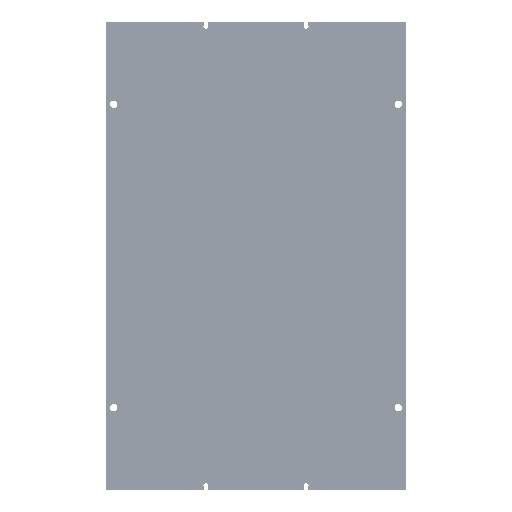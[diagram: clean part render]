
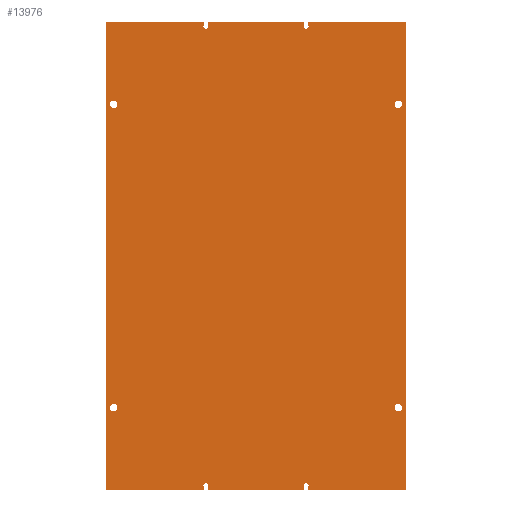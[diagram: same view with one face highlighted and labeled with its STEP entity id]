
A CAD part, front view. The second image highlights one B-rep face of the part: STEP entity #13976.
In plain terms, the highlighted planar face has unit normal (0, -1, 0).
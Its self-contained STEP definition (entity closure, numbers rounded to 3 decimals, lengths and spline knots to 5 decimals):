
#820=LINE('',#18560,#2181);
#1679=LINE('',#46439,#3040);
#1681=LINE('',#46443,#3042);
#1778=LINE('',#55259,#3139);
#1780=LINE('',#55263,#3141);
#1783=LINE('',#55269,#3144);
#1788=LINE('',#55283,#3149);
#1790=LINE('',#55287,#3151);
#1825=LINE('',#55360,#3186);
#1882=LINE('',#55473,#3243);
#1959=LINE('',#64258,#3320);
#1962=LINE('',#64264,#3323);
#1965=LINE('',#64271,#3326);
#1966=LINE('',#64273,#3327);
#1967=LINE('',#64276,#3328);
#1968=LINE('',#64279,#3329);
#2181=VECTOR('',#15338,0.06885);
#3040=VECTOR('',#17245,0.06885);
#3042=VECTOR('',#17249,0.00168);
#3139=VECTOR('',#17466,0.00168);
#3141=VECTOR('',#17470,0.0677);
#3144=VECTOR('',#17475,0.00168);
#3149=VECTOR('',#17488,0.00168);
#3151=VECTOR('',#17492,0.06885);
#3186=VECTOR('',#17565,0.327);
#3243=VECTOR('',#17670,0.327);
#3320=VECTOR('',#17837,0.06885);
#3323=VECTOR('',#17842,0.00168);
#3326=VECTOR('',#17847,0.0677);
#3327=VECTOR('',#17848,0.00168);
#3328=VECTOR('',#17851,0.00168);
#3329=VECTOR('',#17854,0.00168);
#3506=FACE_BOUND('',#5208,.T.);
#3507=FACE_BOUND('',#5209,.T.);
#3508=FACE_BOUND('',#5210,.T.);
#3509=FACE_BOUND('',#5211,.T.);
#4338=FACE_OUTER_BOUND('',#5207,.T.);
#5207=EDGE_LOOP('',(#12322,#12323,#12324,#12325,#12326,#12327,#12328,#12329,
#12330,#12331,#12332,#12333,#12334,#12335,#12336,#12337,#12338,#12339,#12340,
#12341));
#5208=EDGE_LOOP('',(#12342));
#5209=EDGE_LOOP('',(#12343));
#5210=EDGE_LOOP('',(#12344));
#5211=EDGE_LOOP('',(#12345));
#5316=CIRCLE('',#14190,0.00265);
#5319=CIRCLE('',#14195,0.00265);
#5344=CIRCLE('',#14282,0.00265);
#5347=CIRCLE('',#14287,0.00265);
#5424=CIRCLE('',#14782,0.00175);
#5425=CIRCLE('',#14787,0.00175);
#5443=CIRCLE('',#14881,0.00175);
#5444=CIRCLE('',#14882,0.00175);
#5581=VERTEX_POINT('',#18532);
#5584=VERTEX_POINT('',#18540);
#5592=VERTEX_POINT('',#18557);
#5593=VERTEX_POINT('',#18559);
#5722=VERTEX_POINT('',#27472);
#5725=VERTEX_POINT('',#27480);
#6356=VERTEX_POINT('',#46436);
#6357=VERTEX_POINT('',#46438);
#6358=VERTEX_POINT('',#46442);
#6472=VERTEX_POINT('',#55254);
#6473=VERTEX_POINT('',#55258);
#6474=VERTEX_POINT('',#55262);
#6476=VERTEX_POINT('',#55268);
#6478=VERTEX_POINT('',#55274);
#6481=VERTEX_POINT('',#55282);
#6482=VERTEX_POINT('',#55286);
#6533=VERTEX_POINT('',#55471);
#6628=VERTEX_POINT('',#64257);
#6630=VERTEX_POINT('',#64263);
#6632=VERTEX_POINT('',#64269);
#6633=VERTEX_POINT('',#64270);
#6634=VERTEX_POINT('',#64272);
#6635=VERTEX_POINT('',#64274);
#6636=VERTEX_POINT('',#64277);
#6915=EDGE_CURVE('',#5581,#5581,#5316,.T.);
#6918=EDGE_CURVE('',#5584,#5584,#5319,.T.);
#6926=EDGE_CURVE('',#5593,#5592,#820,.T.);
#7128=EDGE_CURVE('',#5722,#5722,#5344,.T.);
#7131=EDGE_CURVE('',#5725,#5725,#5347,.T.);
#8117=EDGE_CURVE('',#6356,#6357,#1679,.T.);
#8119=EDGE_CURVE('',#6357,#6358,#1681,.T.);
#8296=EDGE_CURVE('',#6472,#6358,#5424,.T.);
#8298=EDGE_CURVE('',#6473,#6472,#1778,.T.);
#8300=EDGE_CURVE('',#6473,#6474,#1780,.T.);
#8303=EDGE_CURVE('',#6474,#6476,#1783,.T.);
#8306=EDGE_CURVE('',#6478,#6476,#5425,.T.);
#8310=EDGE_CURVE('',#6481,#6478,#1788,.T.);
#8312=EDGE_CURVE('',#6481,#6482,#1790,.T.);
#8349=EDGE_CURVE('',#5592,#6482,#1825,.T.);
#8406=EDGE_CURVE('',#6533,#6356,#1882,.T.);
#8557=EDGE_CURVE('',#6533,#6628,#1959,.T.);
#8560=EDGE_CURVE('',#6628,#6630,#1962,.T.);
#8563=EDGE_CURVE('',#6632,#6633,#1965,.T.);
#8564=EDGE_CURVE('',#6633,#6634,#1966,.T.);
#8565=EDGE_CURVE('',#6635,#6634,#5443,.T.);
#8566=EDGE_CURVE('',#5593,#6635,#1967,.T.);
#8567=EDGE_CURVE('',#6636,#6630,#5444,.T.);
#8568=EDGE_CURVE('',#6632,#6636,#1968,.T.);
#12322=ORIENTED_EDGE('',*,*,#8563,.T.);
#12323=ORIENTED_EDGE('',*,*,#8564,.T.);
#12324=ORIENTED_EDGE('',*,*,#8565,.F.);
#12325=ORIENTED_EDGE('',*,*,#8566,.F.);
#12326=ORIENTED_EDGE('',*,*,#6926,.T.);
#12327=ORIENTED_EDGE('',*,*,#8349,.T.);
#12328=ORIENTED_EDGE('',*,*,#8312,.F.);
#12329=ORIENTED_EDGE('',*,*,#8310,.T.);
#12330=ORIENTED_EDGE('',*,*,#8306,.T.);
#12331=ORIENTED_EDGE('',*,*,#8303,.F.);
#12332=ORIENTED_EDGE('',*,*,#8300,.F.);
#12333=ORIENTED_EDGE('',*,*,#8298,.T.);
#12334=ORIENTED_EDGE('',*,*,#8296,.T.);
#12335=ORIENTED_EDGE('',*,*,#8119,.F.);
#12336=ORIENTED_EDGE('',*,*,#8117,.F.);
#12337=ORIENTED_EDGE('',*,*,#8406,.F.);
#12338=ORIENTED_EDGE('',*,*,#8557,.T.);
#12339=ORIENTED_EDGE('',*,*,#8560,.T.);
#12340=ORIENTED_EDGE('',*,*,#8567,.F.);
#12341=ORIENTED_EDGE('',*,*,#8568,.F.);
#12342=ORIENTED_EDGE('',*,*,#7131,.T.);
#12343=ORIENTED_EDGE('',*,*,#7128,.T.);
#12344=ORIENTED_EDGE('',*,*,#6918,.T.);
#12345=ORIENTED_EDGE('',*,*,#6915,.T.);
#13215=PLANE('',#14880);
#13976=ADVANCED_FACE('',(#4338,#3506,#3507,#3508,#3509),#13215,.T.);
#14190=AXIS2_PLACEMENT_3D('',#18533,#15314,#15315);
#14195=AXIS2_PLACEMENT_3D('',#18541,#15324,#15325);
#14282=AXIS2_PLACEMENT_3D('',#27473,#15611,#15612);
#14287=AXIS2_PLACEMENT_3D('',#27481,#15621,#15622);
#14782=AXIS2_PLACEMENT_3D('',#55255,#17461,#17462);
#14787=AXIS2_PLACEMENT_3D('',#55275,#17480,#17481);
#14880=AXIS2_PLACEMENT_3D('',#64268,#17845,#17846);
#14881=AXIS2_PLACEMENT_3D('',#64275,#17849,#17850);
#14882=AXIS2_PLACEMENT_3D('',#64278,#17852,#17853);
#15314=DIRECTION('center_axis',(0.,1.,0.));
#15315=DIRECTION('ref_axis',(-1.,0.,0.));
#15324=DIRECTION('center_axis',(0.,1.,0.));
#15325=DIRECTION('ref_axis',(1.,0.,0.));
#15338=DIRECTION('',(1.,0.,0.));
#15611=DIRECTION('center_axis',(0.,1.,0.));
#15612=DIRECTION('ref_axis',(-1.,0.,0.));
#15621=DIRECTION('center_axis',(0.,1.,0.));
#15622=DIRECTION('ref_axis',(-1.,0.,0.));
#17245=DIRECTION('',(1.,0.,0.));
#17249=DIRECTION('',(0.,0.,-1.));
#17461=DIRECTION('center_axis',(0.,1.,0.));
#17462=DIRECTION('ref_axis',(0.657,0.,0.754));
#17466=DIRECTION('',(0.,0.,-1.));
#17470=DIRECTION('',(1.,0.,0.));
#17475=DIRECTION('',(0.,0.,-1.));
#17480=DIRECTION('center_axis',(0.,1.,0.));
#17481=DIRECTION('ref_axis',(0.657,0.,0.754));
#17488=DIRECTION('',(0.,0.,-1.));
#17492=DIRECTION('',(1.,0.,0.));
#17565=DIRECTION('',(0.,0.,1.));
#17670=DIRECTION('',(0.,0.,1.));
#17837=DIRECTION('',(1.,0.,0.));
#17842=DIRECTION('',(0.,0.,1.));
#17845=DIRECTION('center_axis',(0.,-1.,0.));
#17846=DIRECTION('ref_axis',(0.,0.,-1.));
#17847=DIRECTION('',(1.,0.,0.));
#17848=DIRECTION('',(0.,0.,1.));
#17849=DIRECTION('center_axis',(0.,-1.,0.));
#17850=DIRECTION('ref_axis',(0.657,0.,-0.754));
#17851=DIRECTION('',(0.,0.,1.));
#17852=DIRECTION('center_axis',(0.,-1.,0.));
#17853=DIRECTION('ref_axis',(0.657,0.,-0.754));
#17854=DIRECTION('',(0.,0.,1.));
#18532=CARTESIAN_POINT('',(-0.10215,-0.1157,-0.106));
#18533=CARTESIAN_POINT('Origin',(-0.0995,-0.1157,-0.106));
#18540=CARTESIAN_POINT('',(0.10215,-0.1157,-0.106));
#18541=CARTESIAN_POINT('Origin',(0.0995,-0.1157,-0.106));
#18557=CARTESIAN_POINT('',(0.105,-0.1157,-0.1635));
#18559=CARTESIAN_POINT('',(0.03615,-0.1157,-0.1635));
#18560=CARTESIAN_POINT('',(0.03615,-0.1157,-0.1635));
#27472=CARTESIAN_POINT('',(0.09685,-0.1157,0.106));
#27473=CARTESIAN_POINT('Origin',(0.0995,-0.1157,0.106));
#27480=CARTESIAN_POINT('',(-0.10215,-0.1157,0.106));
#27481=CARTESIAN_POINT('Origin',(-0.0995,-0.1157,0.106));
#46436=CARTESIAN_POINT('',(-0.105,-0.1157,0.1635));
#46438=CARTESIAN_POINT('',(-0.03615,-0.1157,0.1635));
#46439=CARTESIAN_POINT('',(-0.105,-0.1157,0.1635));
#46442=CARTESIAN_POINT('',(-0.03615,-0.1157,0.16182));
#46443=CARTESIAN_POINT('',(-0.03615,-0.1157,0.1635));
#55254=CARTESIAN_POINT('',(-0.03385,-0.1157,0.16182));
#55255=CARTESIAN_POINT('Origin',(-0.035,-0.1157,0.1605));
#55258=CARTESIAN_POINT('',(-0.03385,-0.1157,0.1635));
#55259=CARTESIAN_POINT('',(-0.03385,-0.1157,0.1635));
#55262=CARTESIAN_POINT('',(0.03385,-0.1157,0.1635));
#55263=CARTESIAN_POINT('',(-0.03385,-0.1157,0.1635));
#55268=CARTESIAN_POINT('',(0.03385,-0.1157,0.16182));
#55269=CARTESIAN_POINT('',(0.03385,-0.1157,0.1635));
#55274=CARTESIAN_POINT('',(0.03615,-0.1157,0.16182));
#55275=CARTESIAN_POINT('Origin',(0.035,-0.1157,0.1605));
#55282=CARTESIAN_POINT('',(0.03615,-0.1157,0.1635));
#55283=CARTESIAN_POINT('',(0.03615,-0.1157,0.1635));
#55286=CARTESIAN_POINT('',(0.105,-0.1157,0.1635));
#55287=CARTESIAN_POINT('',(0.03615,-0.1157,0.1635));
#55360=CARTESIAN_POINT('',(0.105,-0.1157,-0.1635));
#55471=CARTESIAN_POINT('',(-0.105,-0.1157,-0.1635));
#55473=CARTESIAN_POINT('',(-0.105,-0.1157,-0.1635));
#64257=CARTESIAN_POINT('',(-0.03615,-0.1157,-0.1635));
#64258=CARTESIAN_POINT('',(-0.105,-0.1157,-0.1635));
#64263=CARTESIAN_POINT('',(-0.03615,-0.1157,-0.16182));
#64264=CARTESIAN_POINT('',(-0.03615,-0.1157,-0.1635));
#64268=CARTESIAN_POINT('Origin',(-0.105,-0.1157,-0.1635));
#64269=CARTESIAN_POINT('',(-0.03385,-0.1157,-0.1635));
#64270=CARTESIAN_POINT('',(0.03385,-0.1157,-0.1635));
#64271=CARTESIAN_POINT('',(-0.03385,-0.1157,-0.1635));
#64272=CARTESIAN_POINT('',(0.03385,-0.1157,-0.16182));
#64273=CARTESIAN_POINT('',(0.03385,-0.1157,-0.1635));
#64274=CARTESIAN_POINT('',(0.03615,-0.1157,-0.16182));
#64275=CARTESIAN_POINT('Origin',(0.035,-0.1157,-0.1605));
#64276=CARTESIAN_POINT('',(0.03615,-0.1157,-0.1635));
#64277=CARTESIAN_POINT('',(-0.03385,-0.1157,-0.16182));
#64278=CARTESIAN_POINT('Origin',(-0.035,-0.1157,-0.1605));
#64279=CARTESIAN_POINT('',(-0.03385,-0.1157,-0.1635));
